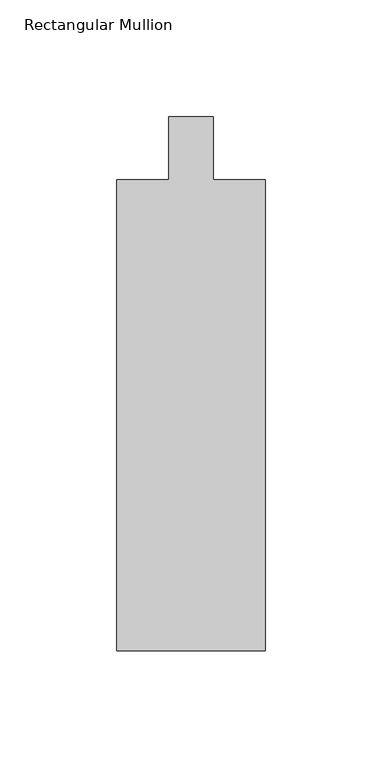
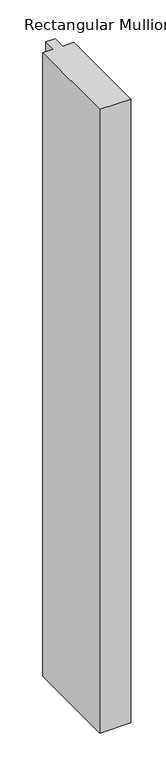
"""IFC4 building model written with IfcOpenShell, lengths in millimetres: member geometry."""

from ifc_helpers import new_model, si_unit, frame, origin, place, context, project, spatial, polyline, outline, extrude, source, transform, mapped, element, save


def rectangular_mullion_75a59cfc(model_context):
    return source(origin(), model_context, "Body", "SweptSolid", [
        extrude(outline(polyline([(-63.5, -228.6), (-63.5, -26.9875), (-41.275, -26.9875), (-41.275, 0.0), (-22.225, 0.0), (-22.225, -26.9875), (0.0, -26.9875), (0.0, -228.6), (-63.5, -228.6)])), frame((0.0, 0.0, -1345.3533333), z_axis=(0.0, 0.0, 1.0), x_axis=(1.0, 0.0, 0.0)), (0.0, 0.0, 1.0), 1345.3533333),
    ])


if __name__ == "__main__":
    model = new_model("IFC4")
    model_context = context("Model", 3, world=origin())
    ifc_project = project(units=[si_unit("LENGTHUNIT", "METRE", prefix="MILLI")], contexts=[model_context])
    site = spatial("IfcSite", under=ifc_project)
    building = spatial("IfcBuilding", under=site)
    placement = place(None, origin())
    rectangular_mullion_shape = rectangular_mullion_75a59cfc(model_context)
    element("IfcMember", 1, ObjectType="Rectangular Mullion : 2 1/2\" x 8\" - Capless", at=placement, inside=building, context=model_context, shape_type="MappedRepresentation", body=[
        mapped(rectangular_mullion_shape, transform((0.0, 0.0, 0.0), x_axis=(1.0, 0.0, 0.0), y_axis=(0.0, 1.0, 0.0), z_axis=(0.0, 0.0, 1.0))),
    ])
    save(model, "model.ifc")
